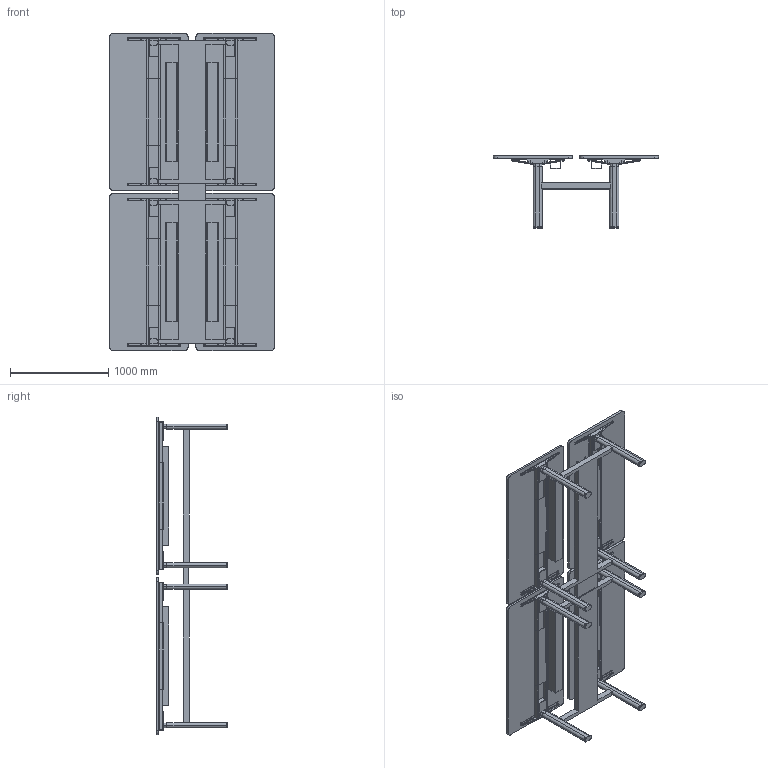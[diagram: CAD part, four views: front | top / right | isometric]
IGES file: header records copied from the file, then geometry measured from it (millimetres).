
Start section: SolidWorks IGES file using analytic representation for surfaces
Global section: file name: C:\Users\simone.cerana\OneDrive - Gruppo Tecno\Desktop\CHINA\DISEGNI DI SERIE\ASSIEMI LISTINO\AXIS LISTINO\FULL OPT\AX3216FO.IGS; native system: SolidWorks 2024; preprocessor: SolidWorks 2024; author: simone.cerana; date: 260512.114348; units: millimetre
Bounding box: 1680 x 730.14 x 3230 mm (x, y, z)
Surface area: 19555994.3 mm2 (no closed solid volume)
Topology: 0 solids, 0 shells, 1246 faces, 13976 edges, 13960 vertices
Faces by surface type: bspline 670, revolution 576
